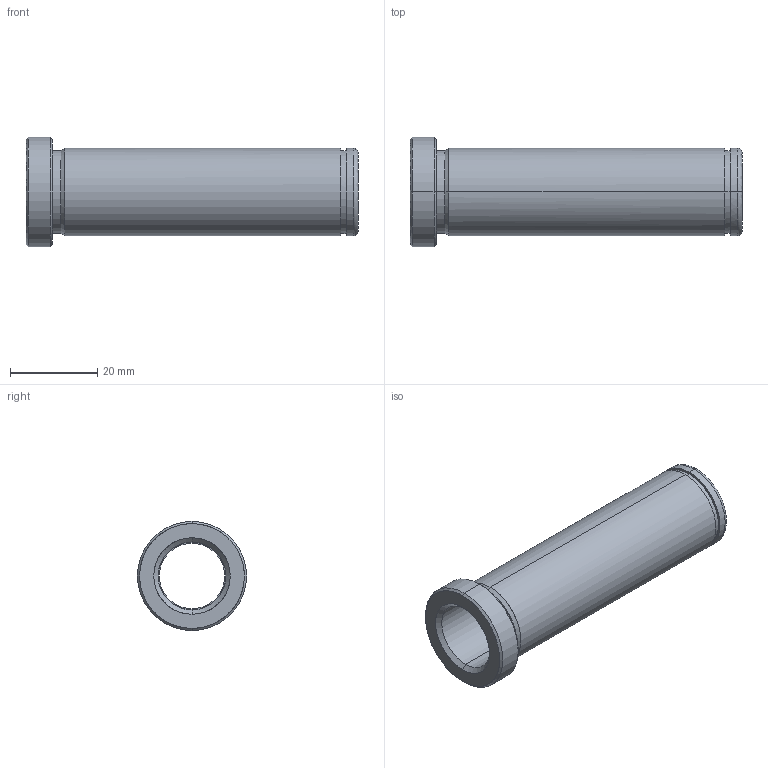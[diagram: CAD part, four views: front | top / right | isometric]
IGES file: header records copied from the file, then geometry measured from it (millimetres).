
Start section: START RECORD GO HERE.
Global section: file name: 553-15X76.igs; native system: DASSAULT SYSTEMES CATIA V5 R20 - www.3ds.com; preprocessor: CATIA Version 5 Release 20 ; author: Utente; organization: NB04-ASUS; date: 20210521.203450; units: millimetre
Bounding box: 76 x 25 x 25 mm (x, y, z)
Surface area: 9084.1 mm2 (no closed solid volume)
Topology: 0 solids, 0 shells, 31 faces, 196 edges, 196 vertices
Faces by surface type: revolution 26, plane 5
